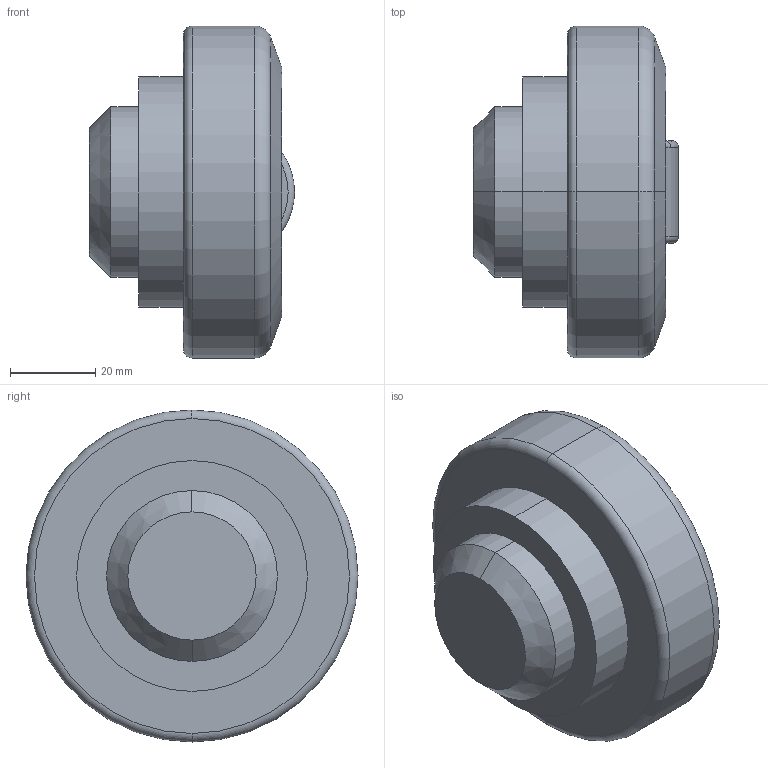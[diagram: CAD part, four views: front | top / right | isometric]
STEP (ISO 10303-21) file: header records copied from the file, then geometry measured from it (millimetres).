
FILE_DESCRIPTION (( 'STEP AP203' ), '1' );
FILE_NAME ('3D40056.STEP', '2002-11-20T09:59:07', ( 'Francesc' ), ( 'propia' ), 'SwSTEP 2.0', 'SolidWorks 2001039', '' );
FILE_SCHEMA (( 'CONFIG_CONTROL_DESIGN' ));
Length unit declared in the file: millimetre
Products named in the file (1): 2
Bounding box: 48 x 77.7 x 77.7 mm (x, y, z)
Volume: 142612.3 mm3; surface area: 16884.8 mm2
Topology: 1 solids, 1 shells, 23 faces, 46 edges, 28 vertices
Faces by surface type: cylinder 7, plane 6, torus 6, cone 4
Entity records: 717 total; most frequent: CARTESIAN_POINT 142, DIRECTION 118, ORIENTED_EDGE 92, AXIS2_PLACEMENT_3D 52, EDGE_CURVE 46, VERTEX_POINT 28, CIRCLE 28, EDGE_LOOP 26
